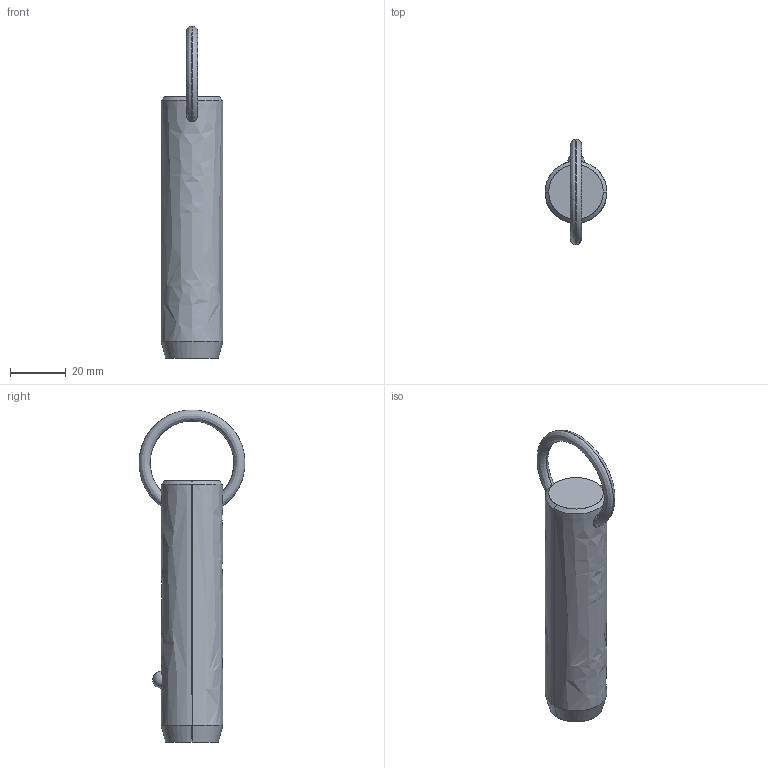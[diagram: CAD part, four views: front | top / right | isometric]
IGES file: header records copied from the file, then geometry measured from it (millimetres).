
Start section: SolidWorks IGES file using analytic representation for surfaces
Global section: file name: C:\Users\liam_\OneDrive\Documents\WORK\Work for WixRoyd\Job Files\J-00019 - Matt Davis CAD Checking\04. CAD Drawings\automotion20190605\P1250.2_v2\P1250.2_v2_20190729_IGES\P1250.087-220.igs; native system: SolidWorks 2017; preprocessor: SolidWorks 2017; author: liam_; date: 190730.000651; units: millimetre
Bounding box: 22.2 x 38.09 x 119.39 mm (x, y, z)
Surface area: 8199.6 mm2 (no closed solid volume)
Topology: 0 solids, 0 shells, 12 faces, 302 edges, 300 vertices
Faces by surface type: revolution 8, bspline 4
